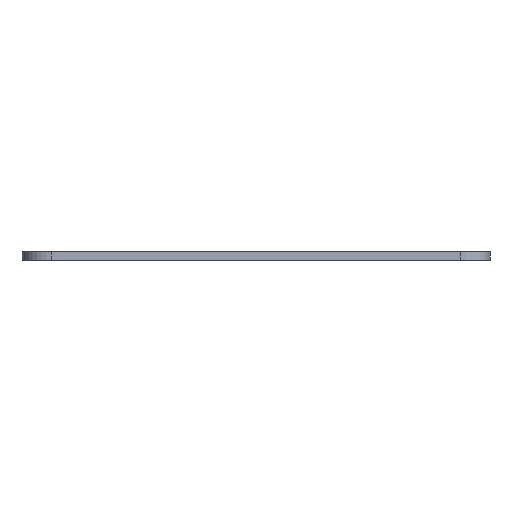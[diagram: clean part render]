
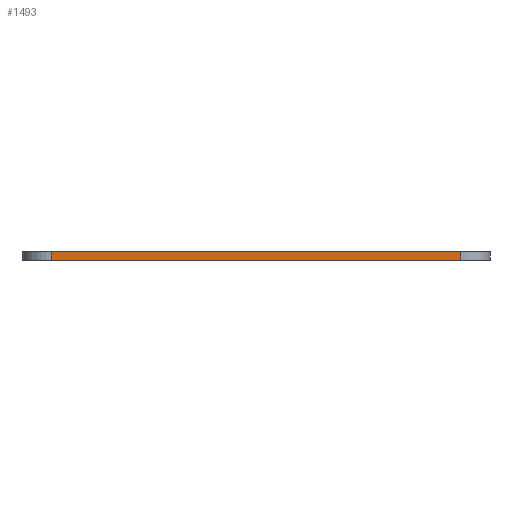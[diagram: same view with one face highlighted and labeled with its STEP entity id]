
A CAD part, left-side view. The second image highlights one B-rep face of the part: STEP entity #1493.
In plain terms, the highlighted planar face has unit normal (-1, 0, 0).
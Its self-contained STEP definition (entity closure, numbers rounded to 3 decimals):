
#134=PLANE('',#1696);
#201=FACE_OUTER_BOUND('',#382,.T.);
#382=EDGE_LOOP('',(#1362,#1363,#1364,#1365));
#443=LINE('',#2509,#516);
#444=LINE('',#2515,#517);
#449=LINE('',#2529,#522);
#455=LINE('',#2541,#528);
#516=VECTOR('',#2111,1000.);
#517=VECTOR('',#2116,1000.);
#522=VECTOR('',#2129,1000.);
#528=VECTOR('',#2147,1000.);
#765=VERTEX_POINT('',#2494);
#772=VERTEX_POINT('',#2507);
#773=VERTEX_POINT('',#2511);
#775=VERTEX_POINT('',#2514);
#959=EDGE_CURVE('',#772,#765,#443,.T.);
#961=EDGE_CURVE('',#775,#773,#444,.T.);
#969=EDGE_CURVE('',#765,#773,#449,.T.);
#975=EDGE_CURVE('',#772,#775,#455,.T.);
#1362=ORIENTED_EDGE('',*,*,#961,.T.);
#1363=ORIENTED_EDGE('',*,*,#969,.F.);
#1364=ORIENTED_EDGE('',*,*,#959,.F.);
#1365=ORIENTED_EDGE('',*,*,#975,.T.);
#1493=ADVANCED_FACE('',(#201),#134,.F.);
#1696=AXIS2_PLACEMENT_3D('',#2542,#2148,#2149);
#2111=DIRECTION('',(0.,1.,0.));
#2116=DIRECTION('',(0.,1.,0.));
#2129=DIRECTION('',(0.,0.,1.));
#2147=DIRECTION('',(0.,0.,1.));
#2148=DIRECTION('center_axis',(1.,0.,0.));
#2149=DIRECTION('ref_axis',(0.,-1.,0.));
#2494=CARTESIAN_POINT('',(-70.,71.5,-1.5));
#2507=CARTESIAN_POINT('',(-70.,-68.5,-1.5));
#2509=CARTESIAN_POINT('',(-70.,71.5,-1.5));
#2511=CARTESIAN_POINT('',(-70.,71.5,1.5));
#2514=CARTESIAN_POINT('',(-70.,-68.5,1.5));
#2515=CARTESIAN_POINT('',(-70.,71.5,1.5));
#2529=CARTESIAN_POINT('',(-70.,71.5,-1.5));
#2541=CARTESIAN_POINT('',(-70.,-68.5,-1.5));
#2542=CARTESIAN_POINT('Origin',(-70.,71.5,-1.5));
